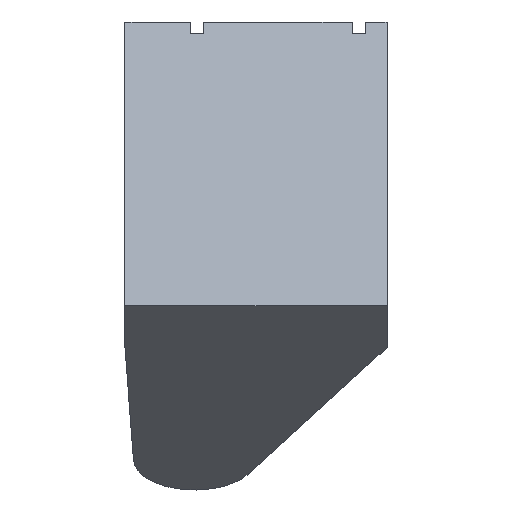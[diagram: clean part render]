
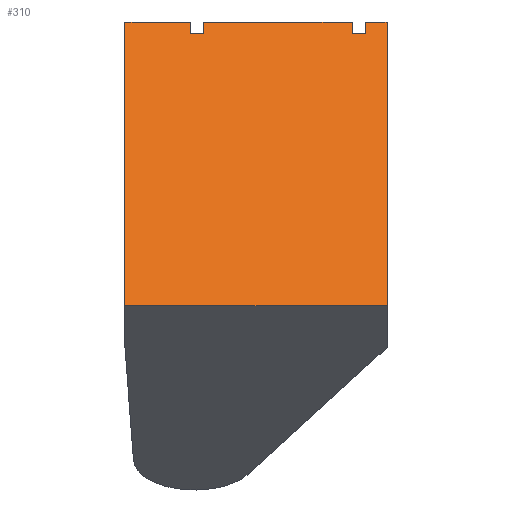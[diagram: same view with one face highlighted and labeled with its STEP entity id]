
A CAD part, top view. The second image highlights one B-rep face of the part: STEP entity #310.
In plain terms, the highlighted planar face has unit normal (0, 0.5, 0.866).
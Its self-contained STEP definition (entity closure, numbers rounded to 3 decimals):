
#133=CARTESIAN_POINT('Line Origine',(750.,46.892,781.218)) ;
#137=CARTESIAN_POINT('Vertex',(1050.,46.892,781.218)) ;
#139=CARTESIAN_POINT('Vertex',(450.,46.892,781.218)) ;
#184=CARTESIAN_POINT('Axis2P3D Location',(0.,350.,606.218)) ;
#189=CARTESIAN_POINT('Line Origine',(1050.,111.843,743.718)) ;
#193=CARTESIAN_POINT('Vertex',(1050.,176.795,706.218)) ;
#196=CARTESIAN_POINT('Line Origine',(1050.,350.605,605.868)) ;
#200=CARTESIAN_POINT('Vertex',(1050.,524.415,505.519)) ;
#203=CARTESIAN_POINT('Line Origine',(1050.,611.018,455.519)) ;
#207=CARTESIAN_POINT('Vertex',(1050.,697.62,405.519)) ;
#210=CARTESIAN_POINT('Line Origine',(1025.,697.62,405.519)) ;
#214=CARTESIAN_POINT('Vertex',(1000.,697.62,405.519)) ;
#217=CARTESIAN_POINT('Line Origine',(1000.,684.63,413.019)) ;
#221=CARTESIAN_POINT('Vertex',(1000.,671.64,420.519)) ;
#224=CARTESIAN_POINT('Line Origine',(985.,671.64,420.519)) ;
#228=CARTESIAN_POINT('Vertex',(970.,671.64,420.519)) ;
#231=CARTESIAN_POINT('Line Origine',(970.,684.63,413.019)) ;
#235=CARTESIAN_POINT('Vertex',(970.,697.62,405.519)) ;
#238=CARTESIAN_POINT('Line Origine',(800.,697.62,405.519)) ;
#242=CARTESIAN_POINT('Vertex',(630.,697.62,405.519)) ;
#245=CARTESIAN_POINT('Line Origine',(630.,684.63,413.019)) ;
#249=CARTESIAN_POINT('Vertex',(630.,671.64,420.519)) ;
#252=CARTESIAN_POINT('Line Origine',(615.,671.64,420.519)) ;
#256=CARTESIAN_POINT('Vertex',(600.,671.64,420.519)) ;
#259=CARTESIAN_POINT('Line Origine',(600.,684.63,413.019)) ;
#263=CARTESIAN_POINT('Vertex',(600.,697.62,405.519)) ;
#266=CARTESIAN_POINT('Line Origine',(525.,697.62,405.519)) ;
#270=CARTESIAN_POINT('Vertex',(450.,697.62,405.519)) ;
#273=CARTESIAN_POINT('Line Origine',(450.,611.018,455.519)) ;
#277=CARTESIAN_POINT('Vertex',(450.,524.415,505.519)) ;
#280=CARTESIAN_POINT('Line Origine',(450.,350.605,605.868)) ;
#284=CARTESIAN_POINT('Vertex',(450.,176.795,706.218)) ;
#287=CARTESIAN_POINT('Line Origine',(450.,111.843,743.718)) ;
#134=DIRECTION('Vector Direction',(-1.,0.,0.)) ;
#185=DIRECTION('Axis2P3D Direction',(0.,-0.5,-0.866)) ;
#186=DIRECTION('Axis2P3D XDirection',(1.,0.,0.)) ;
#190=DIRECTION('Vector Direction',(0.,-0.866,0.5)) ;
#197=DIRECTION('Vector Direction',(0.,-0.866,0.5)) ;
#204=DIRECTION('Vector Direction',(0.,-0.866,0.5)) ;
#211=DIRECTION('Vector Direction',(1.,0.,0.)) ;
#218=DIRECTION('Vector Direction',(0.,-0.866,0.5)) ;
#225=DIRECTION('Vector Direction',(-1.,0.,0.)) ;
#232=DIRECTION('Vector Direction',(0.,0.866,-0.5)) ;
#239=DIRECTION('Vector Direction',(-1.,0.,0.)) ;
#246=DIRECTION('Vector Direction',(0.,-0.866,0.5)) ;
#253=DIRECTION('Vector Direction',(-1.,0.,0.)) ;
#260=DIRECTION('Vector Direction',(0.,0.866,-0.5)) ;
#267=DIRECTION('Vector Direction',(-1.,0.,0.)) ;
#274=DIRECTION('Vector Direction',(0.,-0.866,0.5)) ;
#281=DIRECTION('Vector Direction',(0.,-0.866,0.5)) ;
#288=DIRECTION('Vector Direction',(0.,-0.866,0.5)) ;
#187=AXIS2_PLACEMENT_3D('Plane Axis2P3D',#184,#185,#186) ;
#293=ORIENTED_EDGE('',*,*,#195,.F.) ;
#294=ORIENTED_EDGE('',*,*,#202,.F.) ;
#295=ORIENTED_EDGE('',*,*,#209,.F.) ;
#296=ORIENTED_EDGE('',*,*,#216,.F.) ;
#297=ORIENTED_EDGE('',*,*,#223,.F.) ;
#298=ORIENTED_EDGE('',*,*,#230,.F.) ;
#299=ORIENTED_EDGE('',*,*,#237,.F.) ;
#300=ORIENTED_EDGE('',*,*,#244,.F.) ;
#301=ORIENTED_EDGE('',*,*,#251,.F.) ;
#302=ORIENTED_EDGE('',*,*,#258,.F.) ;
#303=ORIENTED_EDGE('',*,*,#265,.F.) ;
#304=ORIENTED_EDGE('',*,*,#272,.F.) ;
#305=ORIENTED_EDGE('',*,*,#279,.F.) ;
#306=ORIENTED_EDGE('',*,*,#286,.T.) ;
#307=ORIENTED_EDGE('',*,*,#291,.T.) ;
#308=ORIENTED_EDGE('',*,*,#141,.F.) ;
#135=VECTOR('Line Direction',#134,1.) ;
#191=VECTOR('Line Direction',#190,1.) ;
#198=VECTOR('Line Direction',#197,1.) ;
#205=VECTOR('Line Direction',#204,1.) ;
#212=VECTOR('Line Direction',#211,1.) ;
#219=VECTOR('Line Direction',#218,1.) ;
#226=VECTOR('Line Direction',#225,1.) ;
#233=VECTOR('Line Direction',#232,1.) ;
#240=VECTOR('Line Direction',#239,1.) ;
#247=VECTOR('Line Direction',#246,1.) ;
#254=VECTOR('Line Direction',#253,1.) ;
#261=VECTOR('Line Direction',#260,1.) ;
#268=VECTOR('Line Direction',#267,1.) ;
#275=VECTOR('Line Direction',#274,1.) ;
#282=VECTOR('Line Direction',#281,1.) ;
#289=VECTOR('Line Direction',#288,1.) ;
#310=ADVANCED_FACE('',(#309),#188,.F.) ;
#141=EDGE_CURVE('',#138,#140,#136,.T.) ;
#195=EDGE_CURVE('',#194,#138,#192,.T.) ;
#202=EDGE_CURVE('',#201,#194,#199,.T.) ;
#209=EDGE_CURVE('',#208,#201,#206,.T.) ;
#216=EDGE_CURVE('',#215,#208,#213,.T.) ;
#223=EDGE_CURVE('',#222,#215,#220,.F.) ;
#230=EDGE_CURVE('',#229,#222,#227,.F.) ;
#237=EDGE_CURVE('',#236,#229,#234,.F.) ;
#244=EDGE_CURVE('',#243,#236,#241,.F.) ;
#251=EDGE_CURVE('',#250,#243,#248,.F.) ;
#258=EDGE_CURVE('',#257,#250,#255,.F.) ;
#265=EDGE_CURVE('',#264,#257,#262,.F.) ;
#272=EDGE_CURVE('',#271,#264,#269,.F.) ;
#279=EDGE_CURVE('',#278,#271,#276,.F.) ;
#286=EDGE_CURVE('',#278,#285,#283,.T.) ;
#291=EDGE_CURVE('',#285,#140,#290,.T.) ;
#292=EDGE_LOOP('',(#293,#294,#295,#296,#297,#298,#299,#300,#301,#302,#303,#304,#305,#306,#307,#308)) ;
#309=FACE_OUTER_BOUND('',#292,.T.) ;
#136=LINE('Line',#133,#135) ;
#192=LINE('Line',#189,#191) ;
#199=LINE('Line',#196,#198) ;
#206=LINE('Line',#203,#205) ;
#213=LINE('Line',#210,#212) ;
#220=LINE('Line',#217,#219) ;
#227=LINE('Line',#224,#226) ;
#234=LINE('Line',#231,#233) ;
#241=LINE('Line',#238,#240) ;
#248=LINE('Line',#245,#247) ;
#255=LINE('Line',#252,#254) ;
#262=LINE('Line',#259,#261) ;
#269=LINE('Line',#266,#268) ;
#276=LINE('Line',#273,#275) ;
#283=LINE('Line',#280,#282) ;
#290=LINE('Line',#287,#289) ;
#188=PLANE('Plane',#187) ;
#138=VERTEX_POINT('',#137) ;
#140=VERTEX_POINT('',#139) ;
#194=VERTEX_POINT('',#193) ;
#201=VERTEX_POINT('',#200) ;
#208=VERTEX_POINT('',#207) ;
#215=VERTEX_POINT('',#214) ;
#222=VERTEX_POINT('',#221) ;
#229=VERTEX_POINT('',#228) ;
#236=VERTEX_POINT('',#235) ;
#243=VERTEX_POINT('',#242) ;
#250=VERTEX_POINT('',#249) ;
#257=VERTEX_POINT('',#256) ;
#264=VERTEX_POINT('',#263) ;
#271=VERTEX_POINT('',#270) ;
#278=VERTEX_POINT('',#277) ;
#285=VERTEX_POINT('',#284) ;
